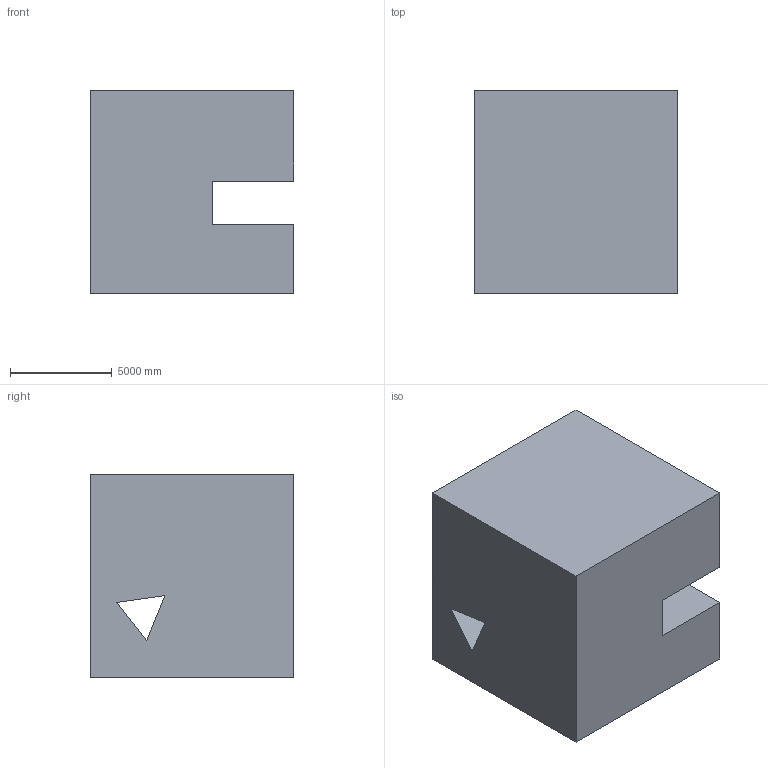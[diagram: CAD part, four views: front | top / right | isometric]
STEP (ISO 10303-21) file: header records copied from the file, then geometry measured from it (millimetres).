
FILE_DESCRIPTION (( 'STEP AP203' ), '1' );
FILE_NAME ('225.STEP', '2022-07-28T13:57:46', ( 'user' ), ( '' ), 'SwSTEP 2.0', 'SolidWorks 2021', '' );
FILE_SCHEMA (( 'CONFIG_CONTROL_DESIGN' ));
Length unit declared in the file: centimetre
Products named in the file (1): 225
Bounding box: 10000 x 10000 x 10000 mm (x, y, z)
Volume: 887576211133.8 mm3; surface area: 713440130.9 mm2
Topology: 1 solids, 1 shells, 17 faces, 48 edges, 32 vertices
Faces by surface type: plane 17
Entity records: 623 total; most frequent: CARTESIAN_POINT 98, ORIENTED_EDGE 96, DIRECTION 84, LINE 48, VECTOR 48, EDGE_CURVE 48, VERTEX_POINT 32, EDGE_LOOP 18
